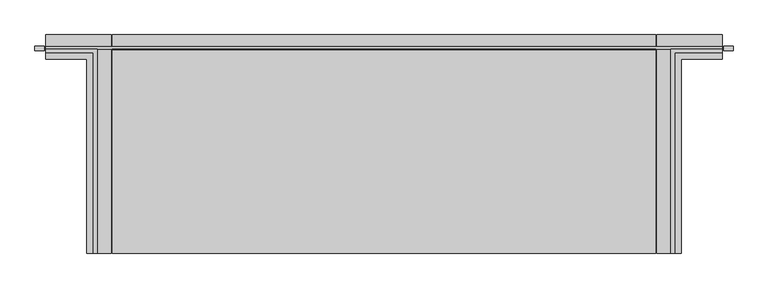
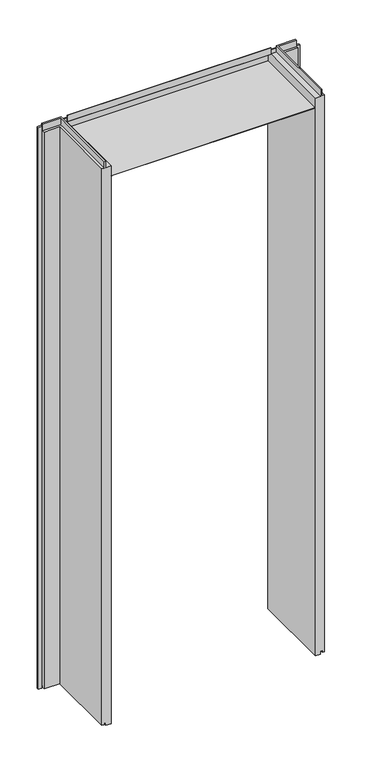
"""IFC4 building model written with IfcOpenShell, lengths in millimetres: plate geometry, Trimo_Qbiss Screen_Wall Opening Trims-HORIZONTAL : HR - B."""

from ifc_helpers import new_model, si_unit, frame, origin, origin_with_axes, place, context, project, spatial, polyline, outline, extrude, faceted_brep, source, transform, mapped, element, save


def plate_91c954e3(model_context):
    return source(origin(), model_context, "Body", "SolidModel", [
        faceted_brep([(-695.4, 71.0, 3228.8), (-695.4, 100.0, 3228.8), (-695.4, 100.0, 0.0), (-695.4, 72.0, 0.0), (-695.4, 72.0, 15.5), (-695.4, 62.0, 15.5), (-695.4, 62.0, 7.0), (-695.4, 50.0, 7.0), (-695.4, 50.0, 3228.8), (-695.4, 63.0, 3228.8), (-695.4, 63.0, 3266.3), (-695.4, 71.0, 3266.3), (-589.4, 71.0, 3228.8), (-589.4, -350.0, 3228.8), (-560.4, -350.0, 3228.8), (-560.4, 100.0, 3228.8), (-560.4, 100.0, 0.0), (-560.4, -350.0, 0.0), (-588.4, -350.0, 0.0), (-588.4, 72.0, 0.0), (-588.4, 72.0, 15.5), (-588.4, -350.0, 15.5), (-598.4, -350.0, 15.5), (-598.4, 62.0, 15.5), (-598.4, 62.0, 7.0), (-598.4, -350.0, 7.0), (-610.4, -350.0, 7.0), (-610.4, 50.0, 7.0), (-610.4, 50.0, 3228.8), (-610.4, -350.0, 3228.8), (-597.4, -350.0, 3228.8), (-597.4, 63.0, 3228.8), (-597.4, 63.0, 3266.3), (-597.4, -350.0, 3266.3), (-589.4, -350.0, 3266.3), (-589.4, 71.0, 3266.3)], [[[0, 1, 2, 3, 4, 5, 6, 7, 8, 9, 10, 11]], [[1, 0, 12, 13, 14, 15]], [[2, 1, 15, 16]], [[3, 2, 16, 17, 18, 19]], [[4, 3, 19, 20]], [[5, 4, 20, 21, 22, 23]], [[6, 5, 23, 24]], [[7, 6, 24, 25, 26, 27]], [[8, 7, 27, 28]], [[9, 8, 28, 29, 30, 31]], [[10, 9, 31, 32]], [[11, 10, 32, 33, 34, 35]], [[0, 11, 35, 12]], [[13, 34, 33, 30, 29, 26, 25, 22, 21, 18, 17, 14]], [[16, 15, 14, 17]], [[20, 19, 18, 21]], [[24, 23, 22, 25]], [[28, 27, 26, 29]], [[32, 31, 30, 33]], [[12, 35, 34, 13]]]),
        faceted_brep([(589.4, -350.0, 3228.8), (560.4, -350.0, 3228.8), (560.4, -350.0, 0.0), (588.4, -350.0, 0.0), (588.4, -350.0, 15.5), (598.4, -350.0, 15.5), (598.4, -350.0, 7.0), (610.4, -350.0, 7.0), (610.4, -350.0, 3228.8), (597.4, -350.0, 3228.8), (597.4, -350.0, 3266.3), (589.4, -350.0, 3266.3), (560.4, 100.0, 0.0), (560.4, 100.0, 3228.8), (695.4, 100.0, 3228.8), (695.4, 100.0, 0.0), (588.4, 72.0, 15.5), (588.4, 72.0, 0.0), (695.4, 72.0, 0.0), (695.4, 72.0, 15.5), (598.4, 62.0, 7.0), (598.4, 62.0, 15.5), (695.4, 62.0, 15.5), (695.4, 62.0, 7.0), (610.4, 50.0, 3228.8), (610.4, 50.0, 7.0), (695.4, 50.0, 7.0), (695.4, 50.0, 3228.8), (597.4, 63.0, 3266.3), (597.4, 63.0, 3228.8), (695.4, 63.0, 3228.8), (695.4, 63.0, 3266.3), (589.4, 71.0, 3228.8), (589.4, 71.0, 3266.3), (695.4, 71.0, 3266.3), (695.4, 71.0, 3228.8)], [[[0, 1, 2, 3, 4, 5, 6, 7, 8, 9, 10, 11]], [[12, 13, 14, 15]], [[16, 17, 18, 19]], [[20, 21, 22, 23]], [[24, 25, 26, 27]], [[28, 29, 30, 31]], [[32, 33, 34, 35]], [[35, 34, 31, 30, 27, 26, 23, 22, 19, 18, 15, 14]], [[1, 0, 32, 35, 14, 13]], [[2, 1, 13, 12]], [[3, 2, 12, 15, 18, 17]], [[4, 3, 17, 16]], [[5, 4, 16, 19, 22, 21]], [[6, 5, 21, 20]], [[7, 6, 20, 23, 26, 25]], [[8, 7, 25, 24]], [[9, 8, 24, 27, 30, 29]], [[10, 9, 29, 28]], [[11, 10, 28, 31, 34, 33]], [[0, 11, 33, 32]]]),
        extrude(outline(polyline([(698.4, 76.5978162), (717.4, 76.5978162), (717.4, 67.8978162), (698.4, 67.8978162), (698.4, 76.5978162)])), origin_with_axes(), (0.0, 0.0, 1.0), 3228.8),
        extrude(outline(polyline([(-698.4, 76.5978162), (-698.4, 67.8978162), (-717.4, 67.8978162), (-717.4, 76.5978162), (-698.4, 76.5978162)])), origin_with_axes(), (0.0, 0.0, 1.0), 3251.8),
        extrude(outline(polyline([(71.0, 3228.8), (100.0, 3228.8), (100.0, 3170.8), (-350.0, 3170.8), (-350.0, 3171.8), (99.0, 3171.8), (99.0, 3227.8), (70.0, 3227.8), (70.0, 3266.3), (71.0, 3266.3), (71.0, 3228.8)])), frame((-558.4, 0.0, 0.0), z_axis=(1.0, 0.0, 0.0), x_axis=(0.0, 1.0, 0.0)), (0.0, 0.0, 1.0), 1116.8),
        extrude(outline(polyline([(695.4, 76.0), (695.4, 71.0), (-695.4, 71.0), (-695.4, 76.0), (695.4, 76.0)])), frame((0.0, 0.0, 3229.8), z_axis=(0.0, 0.0, 1.0), x_axis=(1.0, 0.0, 0.0)), (0.0, 0.0, 1.0), 21.0),
    ])


if __name__ == "__main__":
    model = new_model("IFC4")
    model_context = context("Model", 3, world=origin())
    ifc_project = project(units=[si_unit("LENGTHUNIT", "METRE", prefix="MILLI")], contexts=[model_context])
    site = spatial("IfcSite", under=ifc_project)
    building = spatial("IfcBuilding", under=site)
    placement = place(None, origin())
    plate_shape = plate_91c954e3(model_context)
    element("IfcPlate", 1, ObjectType="Trimo_Qbiss Screen_Wall Opening Trims-HORIZONTAL : HR - B", at=placement, inside=building, context=model_context, shape_type="MappedRepresentation", body=[
        mapped(plate_shape, transform((0.0, 0.0, 0.0), x_axis=(1.0, 0.0, 0.0), y_axis=(0.0, 1.0, 0.0), z_axis=(0.0, 0.0, 1.0))),
    ])
    save(model, "model.ifc")
